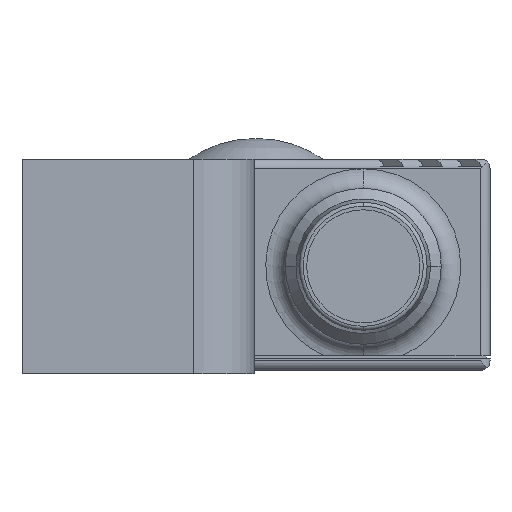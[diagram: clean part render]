
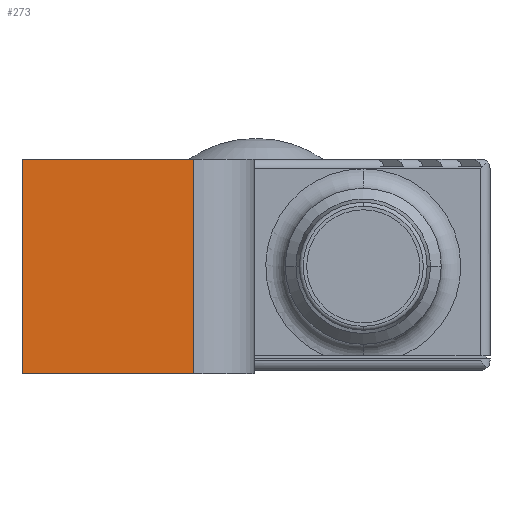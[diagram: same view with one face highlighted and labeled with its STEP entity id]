
A CAD part, front view. The second image highlights one B-rep face of the part: STEP entity #273.
In plain terms, the highlighted planar face has unit normal (0, -1, 0).
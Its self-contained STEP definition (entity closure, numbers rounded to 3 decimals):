
#273 = ADVANCED_FACE( '', ( #587 ), #588, .T. );
#587 = FACE_OUTER_BOUND( '', #904, .T. );
#588 = PLANE( '', #905 );
#904 = EDGE_LOOP( '', ( #2141, #2142, #2143, #2144 ) );
#905 = AXIS2_PLACEMENT_3D( '', #2145, #2146, #2147 );
#2141 = ORIENTED_EDGE( '', *, *, #2528, .T. );
#2142 = ORIENTED_EDGE( '', *, *, #2573, .F. );
#2143 = ORIENTED_EDGE( '', *, *, #2574, .F. );
#2144 = ORIENTED_EDGE( '', *, *, #2571, .T. );
#2145 = CARTESIAN_POINT( '', ( -17.5, -1., 5.5 ) );
#2146 = DIRECTION( '', ( 0., -1., 0. ) );
#2147 = DIRECTION( '', ( -1., 0., 0. ) );
#2528 = EDGE_CURVE( '', #3162, #3160, #3163, .T. );
#2571 = EDGE_CURVE( '', #3231, #3162, #3232, .T. );
#2573 = EDGE_CURVE( '', #3234, #3160, #3235, .T. );
#2574 = EDGE_CURVE( '', #3231, #3234, #3236, .T. );
#3160 = VERTEX_POINT( '', #4083 );
#3162 = VERTEX_POINT( '', #4085 );
#3163 = LINE( '', #4086, #4087 );
#3231 = VERTEX_POINT( '', #4188 );
#3232 = LINE( '', #4189, #4190 );
#3234 = VERTEX_POINT( '', #4193 );
#3235 = LINE( '', #4194, #4195 );
#3236 = LINE( '', #4196, #4197 );
#4083 = CARTESIAN_POINT( '', ( -8.7, -1., -5.5 ) );
#4085 = CARTESIAN_POINT( '', ( -17.5, -1., -5.5 ) );
#4086 = CARTESIAN_POINT( '', ( -17.5, -1., -5.5 ) );
#4087 = VECTOR( '', #4829, 1. );
#4188 = CARTESIAN_POINT( '', ( -17.5, -1., 5.5 ) );
#4189 = CARTESIAN_POINT( '', ( -17.5, -1., 5.5 ) );
#4190 = VECTOR( '', #4890, 1. );
#4193 = CARTESIAN_POINT( '', ( -8.7, -1., 5.5 ) );
#4194 = CARTESIAN_POINT( '', ( -8.7, -1., 5.5 ) );
#4195 = VECTOR( '', #4892, 1. );
#4196 = CARTESIAN_POINT( '', ( -17.5, -1., 5.5 ) );
#4197 = VECTOR( '', #4893, 1. );
#4829 = DIRECTION( '', ( 1., 0., 0. ) );
#4890 = DIRECTION( '', ( 0., 0., -1. ) );
#4892 = DIRECTION( '', ( 0., 0., -1. ) );
#4893 = DIRECTION( '', ( 1., 0., 0. ) );
